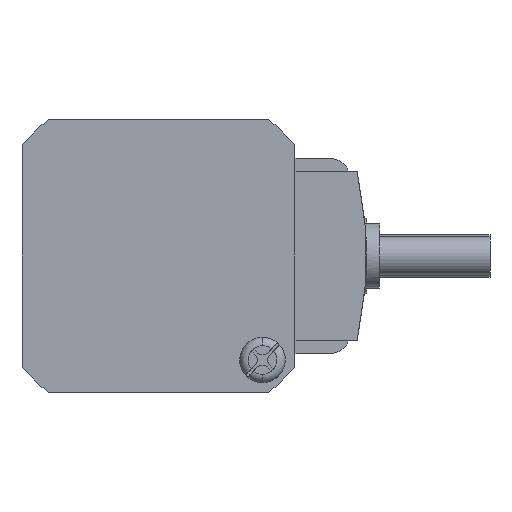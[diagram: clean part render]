
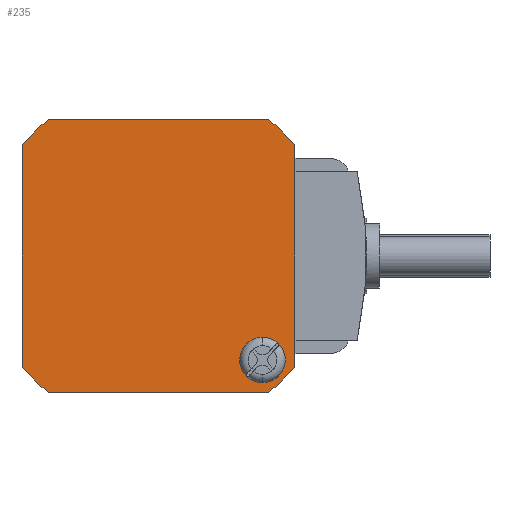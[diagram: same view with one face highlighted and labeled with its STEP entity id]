
A CAD part, left-side view. The second image highlights one B-rep face of the part: STEP entity #235.
In plain terms, the highlighted planar face has unit normal (-1, 0, 0).
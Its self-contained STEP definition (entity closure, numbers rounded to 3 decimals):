
#235 = ADVANCED_FACE( '', ( #572, #573 ), #574, .F. );
#572 = FACE_BOUND( '', #916, .T. );
#573 = FACE_OUTER_BOUND( '', #917, .T. );
#574 = PLANE( '', #918 );
#916 = EDGE_LOOP( '', ( #2198, #2199 ) );
#917 = EDGE_LOOP( '', ( #2200, #2201, #2202, #2203, #2204, #2205, #2206, #2207 ) );
#918 = AXIS2_PLACEMENT_3D( '', #2208, #2209, #2210 );
#2198 = ORIENTED_EDGE( '', *, *, #2388, .T. );
#2199 = ORIENTED_EDGE( '', *, *, #2304, .T. );
#2200 = ORIENTED_EDGE( '', *, *, #2539, .F. );
#2201 = ORIENTED_EDGE( '', *, *, #2578, .F. );
#2202 = ORIENTED_EDGE( '', *, *, #2583, .F. );
#2203 = ORIENTED_EDGE( '', *, *, #2589, .F. );
#2204 = ORIENTED_EDGE( '', *, *, #2628, .F. );
#2205 = ORIENTED_EDGE( '', *, *, #2528, .F. );
#2206 = ORIENTED_EDGE( '', *, *, #2524, .F. );
#2207 = ORIENTED_EDGE( '', *, *, #2533, .F. );
#2208 = CARTESIAN_POINT( '', ( -75., 0., 0. ) );
#2209 = DIRECTION( '', ( 1., 0., 0. ) );
#2210 = DIRECTION( '', ( 0., 0., -1. ) );
#2304 = EDGE_CURVE( '', #2775, #2772, #2776, .T. );
#2388 = EDGE_CURVE( '', #2772, #2775, #2912, .T. );
#2524 = EDGE_CURVE( '', #3128, #3130, #3131, .T. );
#2528 = EDGE_CURVE( '', #3130, #3136, #3137, .T. );
#2533 = EDGE_CURVE( '', #3142, #3128, #3144, .T. );
#2539 = EDGE_CURVE( '', #3151, #3142, #3153, .T. );
#2578 = EDGE_CURVE( '', #3216, #3151, #3218, .T. );
#2583 = EDGE_CURVE( '', #3223, #3216, #3225, .T. );
#2589 = EDGE_CURVE( '', #3232, #3223, #3234, .T. );
#2628 = EDGE_CURVE( '', #3136, #3232, #3300, .T. );
#2772 = VERTEX_POINT( '', #3489 );
#2775 = VERTEX_POINT( '', #3493 );
#2776 = CIRCLE( '', #3494, 3.5 );
#2912 = CIRCLE( '', #3813, 3.5 );
#3128 = VERTEX_POINT( '', #4118 );
#3130 = VERTEX_POINT( '', #4121 );
#3131 = CIRCLE( '', #4122, 27. );
#3136 = VERTEX_POINT( '', #4130 );
#3137 = LINE( '', #4131, #4132 );
#3142 = VERTEX_POINT( '', #4139 );
#3144 = LINE( '', #4142, #4143 );
#3151 = VERTEX_POINT( '', #4153 );
#3153 = CIRCLE( '', #4156, 27. );
#3216 = VERTEX_POINT( '', #4243 );
#3218 = LINE( '', #4246, #4247 );
#3223 = VERTEX_POINT( '', #4253 );
#3225 = CIRCLE( '', #4256, 27. );
#3232 = VERTEX_POINT( '', #4266 );
#3234 = LINE( '', #4269, #4270 );
#3300 = CIRCLE( '', #4360, 27. );
#3489 = CARTESIAN_POINT( '', ( -75., -12.5, -16. ) );
#3493 = CARTESIAN_POINT( '', ( -75., -19.5, -16. ) );
#3494 = AXIS2_PLACEMENT_3D( '', #4526, #4527, #4528 );
#3813 = AXIS2_PLACEMENT_3D( '', #4662, #4663, #4664 );
#4118 = CARTESIAN_POINT( '', ( -75., -21., -16.971 ) );
#4121 = CARTESIAN_POINT( '', ( -75., -16.971, -21. ) );
#4122 = AXIS2_PLACEMENT_3D( '', #4890, #4891, #4892 );
#4130 = CARTESIAN_POINT( '', ( -75., 16.971, -21. ) );
#4131 = CARTESIAN_POINT( '', ( -75., -16.971, -21. ) );
#4132 = VECTOR( '', #4896, 1. );
#4139 = CARTESIAN_POINT( '', ( -75., -21., 16.971 ) );
#4142 = CARTESIAN_POINT( '', ( -75., -21., 16.971 ) );
#4143 = VECTOR( '', #4903, 1. );
#4153 = CARTESIAN_POINT( '', ( -75., -16.971, 21. ) );
#4156 = AXIS2_PLACEMENT_3D( '', #4911, #4912, #4913 );
#4243 = CARTESIAN_POINT( '', ( -75., 16.971, 21. ) );
#4246 = CARTESIAN_POINT( '', ( -75., 16.971, 21. ) );
#4247 = VECTOR( '', #4978, 1. );
#4253 = CARTESIAN_POINT( '', ( -75., 21., 16.971 ) );
#4256 = AXIS2_PLACEMENT_3D( '', #4987, #4988, #4989 );
#4266 = CARTESIAN_POINT( '', ( -75., 21., -16.971 ) );
#4269 = CARTESIAN_POINT( '', ( -75., 21., -16.971 ) );
#4270 = VECTOR( '', #4997, 1. );
#4360 = AXIS2_PLACEMENT_3D( '', #5064, #5065, #5066 );
#4526 = CARTESIAN_POINT( '', ( -75., -16., -16. ) );
#4527 = DIRECTION( '', ( 1., 0., 0. ) );
#4528 = DIRECTION( '', ( 0., 1., 0. ) );
#4662 = CARTESIAN_POINT( '', ( -75., -16., -16. ) );
#4663 = DIRECTION( '', ( 1., 0., 0. ) );
#4664 = DIRECTION( '', ( 0., 1., 0. ) );
#4890 = CARTESIAN_POINT( '', ( -75., 0., 0. ) );
#4891 = DIRECTION( '', ( 1., 0., 0. ) );
#4892 = DIRECTION( '', ( 0., -0.778, -0.629 ) );
#4896 = DIRECTION( '', ( 0., 1., 0. ) );
#4903 = DIRECTION( '', ( 0., 0., -1. ) );
#4911 = CARTESIAN_POINT( '', ( -75., 0., 0. ) );
#4912 = DIRECTION( '', ( 1., 0., 0. ) );
#4913 = DIRECTION( '', ( 0., -0.629, 0.778 ) );
#4978 = DIRECTION( '', ( 0., -1., 0. ) );
#4987 = CARTESIAN_POINT( '', ( -75., 0., 0. ) );
#4988 = DIRECTION( '', ( 1., 0., 0. ) );
#4989 = DIRECTION( '', ( 0., 0.778, 0.629 ) );
#4997 = DIRECTION( '', ( 0., 0., 1. ) );
#5064 = CARTESIAN_POINT( '', ( -75., 0., 0. ) );
#5065 = DIRECTION( '', ( 1., 0., 0. ) );
#5066 = DIRECTION( '', ( 0., 0.629, -0.778 ) );
